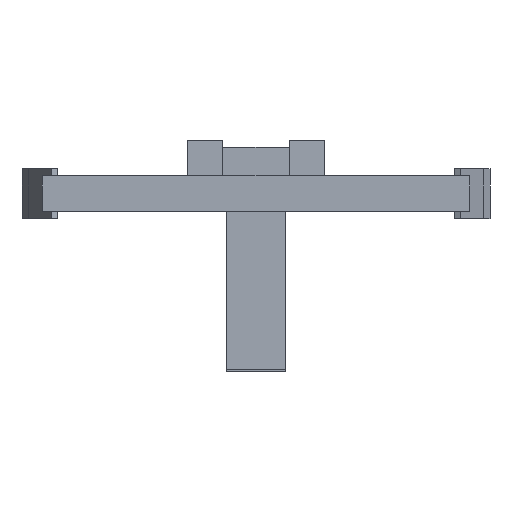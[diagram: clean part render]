
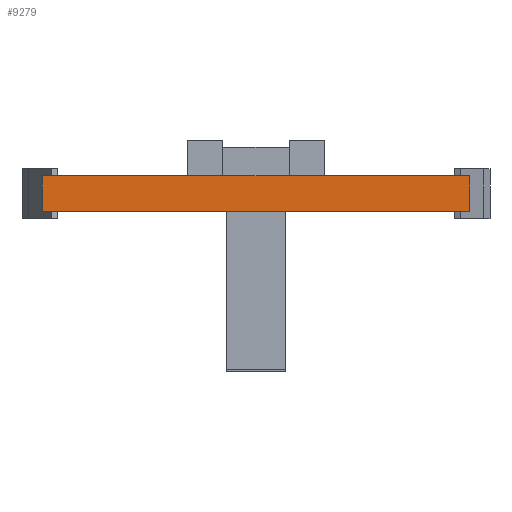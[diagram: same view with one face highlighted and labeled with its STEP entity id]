
A CAD part, front view. The second image highlights one B-rep face of the part: STEP entity #9279.
In plain terms, the highlighted planar face has unit normal (0, -1, 0).
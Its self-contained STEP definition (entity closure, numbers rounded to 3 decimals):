
#5=DIRECTION('',(1.,0.,0.));
#6=VECTOR('',#5,56.);
#7=CARTESIAN_POINT('',(-28.,125.,0.));
#8=LINE('',#7,#6);
#1181=DIRECTION('',(-1.,0.,0.));
#1182=VECTOR('',#1181,152.);
#1183=CARTESIAN_POINT('',(-28.,125.,0.));
#1184=LINE('',#1183,#1182);
#1209=DIRECTION('',(-1.,0.,0.));
#1210=VECTOR('',#1209,152.);
#1211=CARTESIAN_POINT('',(180.,125.,0.));
#1212=LINE('',#1211,#1210);
#1253=DIRECTION('',(0.,0.,-1.));
#1254=VECTOR('',#1253,30.);
#1255=CARTESIAN_POINT('',(-180.,125.,0.));
#1256=LINE('',#1255,#1254);
#1273=DIRECTION('',(-1.,0.,0.));
#1274=VECTOR('',#1273,360.);
#1275=CARTESIAN_POINT('',(180.,125.,-30.));
#1276=LINE('',#1275,#1274);
#1305=DIRECTION('',(0.,0.,-1.));
#1306=VECTOR('',#1305,30.);
#1307=CARTESIAN_POINT('',(180.,125.,0.));
#1308=LINE('',#1307,#1306);
#5785=CARTESIAN_POINT('',(180.,125.,-30.));
#5786=CARTESIAN_POINT('',(-180.,125.,-30.));
#5787=VERTEX_POINT('',#5785);
#5788=VERTEX_POINT('',#5786);
#5793=CARTESIAN_POINT('',(180.,125.,0.));
#5794=VERTEX_POINT('',#5793);
#5795=CARTESIAN_POINT('',(-180.,125.,0.));
#5796=VERTEX_POINT('',#5795);
#5801=CARTESIAN_POINT('',(28.,125.,0.));
#5802=VERTEX_POINT('',#5801);
#5851=CARTESIAN_POINT('',(-28.,125.,0.));
#5852=VERTEX_POINT('',#5851);
#9265=CARTESIAN_POINT('',(180.,125.,0.));
#9266=DIRECTION('',(0.,-1.,0.));
#9267=DIRECTION('',(-1.,0.,0.));
#9268=AXIS2_PLACEMENT_3D('',#9265,#9266,#9267);
#9269=PLANE('',#9268);
#9270=ORIENTED_EDGE('',*,*,#9125,.F.);
#9272=ORIENTED_EDGE('',*,*,#9271,.T.);
#9273=ORIENTED_EDGE('',*,*,#9247,.T.);
#9274=ORIENTED_EDGE('',*,*,#9231,.F.);
#9275=ORIENTED_EDGE('',*,*,#9103,.F.);
#9276=ORIENTED_EDGE('',*,*,#7668,.T.);
#9277=EDGE_LOOP('',(#9270,#9272,#9273,#9274,#9275,#9276));
#9278=FACE_OUTER_BOUND('',#9277,.F.);
#9279=ADVANCED_FACE('',(#9278),#9269,.T.);
#7668=EDGE_CURVE('',#5852,#5802,#8,.T.);
#9103=EDGE_CURVE('',#5852,#5796,#1184,.T.);
#9125=EDGE_CURVE('',#5794,#5802,#1212,.T.);
#9231=EDGE_CURVE('',#5796,#5788,#1256,.T.);
#9247=EDGE_CURVE('',#5787,#5788,#1276,.T.);
#9271=EDGE_CURVE('',#5794,#5787,#1308,.T.);
